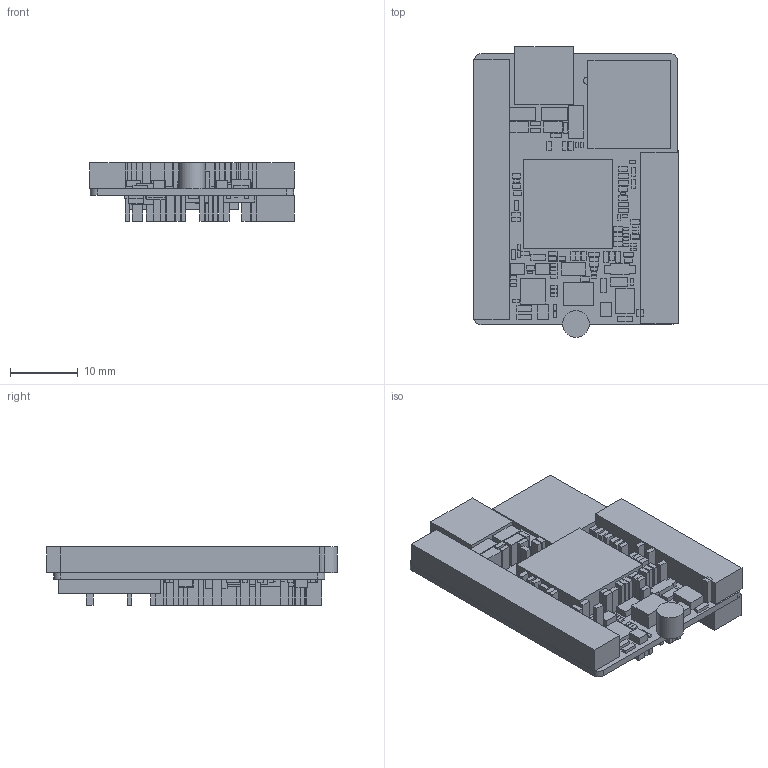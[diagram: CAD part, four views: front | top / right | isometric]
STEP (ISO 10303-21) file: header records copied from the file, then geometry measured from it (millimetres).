
FILE_DESCRIPTION(/* description */ ('PCB Design'),/* implementation_level */ '2;1');
FILE_NAME(/* name */ 'Sololinker-A_V3-20240803',/* time_stamp */ '2024-08-03T16:03:45+08:00',/* author */ ('caoweiwei'),/* organization */ (''),/* preprocessor_version */ 'ST-DEVELOPER v15',/* originating_system */ 'allegro_16.6-2015S112',/* authorisation */ '');
FILE_SCHEMA (('AUTOMOTIVE_DESIGN'));
Length unit declared in the file: millimetre
Products named in the file (47): SOLOLINKER-A_V3-20240803; BOARD; COMPONENTS; SW-SMD_4P-L4_2-W3_4-P2_15; SR0402; WSON8_8R00X6R00X0R80_T-1; MARK1_0; C1206; SOD_523; CRY4_2R50X2R00X0R80; LC0402SN; LC0403SN; SOT_23; WB800D80U; SR0603; F1206; SOD123FL-2_9X1_9H1_1; SOD_123; SC0805; SOT_23_6; SOT_563; MSOP10_3X5; HDR-TH_30P-P2_54-V-M-R2-C15-S1; FPC_0M5_15_OS; TF-CKT01-009D; C0603; LED0402; IPEX_4MM_3MM; SON10_2R50X1R00X0R50; USB-C-SMD_TYPEC-324G-BCP24; FPC_0M5_40_OS; XTAL2-3_3X1_6H1_0; HOLE_C2R00_C3R50; SR0201; R0402; R0201; IND_2016; L0402; SC0603; SC0201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
Assembly tree (208 placements, depth 3):
  SOLOLINKER-A_V3-20240803
    BOARD
    COMPONENTS
      SW-SMD_4P-L4_2-W3_4-P2_15
      SR0402  x6
      WSON8_8R00X6R00X0R80_T-1
      MARK1_0  x2
      C1206
      SOD_523  x2
      CRY4_2R50X2R00X0R80
      LC0402SN  x2
      LC0403SN  x2
      SOT_23
      WB800D80U
      SR0603
      F1206
      SOD123FL-2_9X1_9H1_1
      SOD_123
      SC0805
      SOT_23_6
      SOT_563
      MSOP10_3X5
      HDR-TH_30P-P2_54-V-M-R2-C15-S1
      FPC_0M5_15_OS  x2
      TF-CKT01-009D
      C0603
      LED0402  x2
      IPEX_4MM_3MM  x2
      SON10_2R50X1R00X0R50  x2
      USB-C-SMD_TYPEC-324G-BCP24
      FPC_0M5_40_OS
      XTAL2-3_3X1_6H1_0
      HOLE_C2R00_C3R50
      SR0201  x20
      R0402  x2
      R0201  x39
      IND_2016  x5
      L0402  x2
      SC0603  x11
      SC0201  x10
      C0402  x17
      C0201  x51
      SOT_323  x2
      SOT_23_5
      QFN20_3R00X3R00X0R85_T
      QFN128_12R3X12R3X0R90_T
      BGA153_13R10X11R60X1R00_2L
Bounding box: 30.23 x 42.91 x 8.64 mm (x, y, z)
Surface area: 9161.3 mm2 (no closed solid volume)
Topology: 0 solids, 207 shells, 1261 faces, 2750 edges, 1694 vertices
Faces by surface type: plane 1251, cylinder 10
Entity records: 9861 total; most frequent: DIRECTION 1228, ORIENTED_EDGE 1194, CARTESIAN_POINT 729, AXIS2_PLACEMENT_3D 725, EDGE_CURVE 644, VECTOR 624, LINE 624, VERTEX_POINT 492
